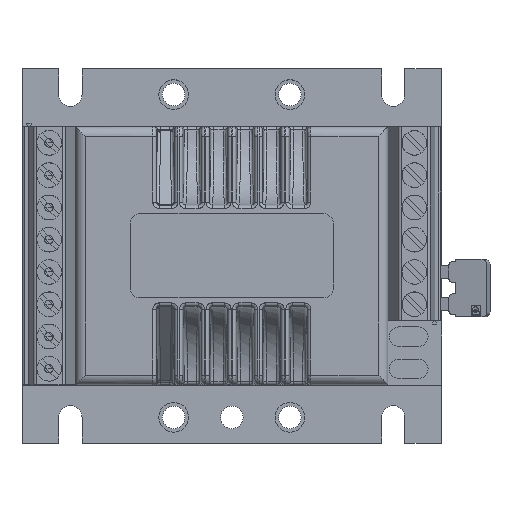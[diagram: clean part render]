
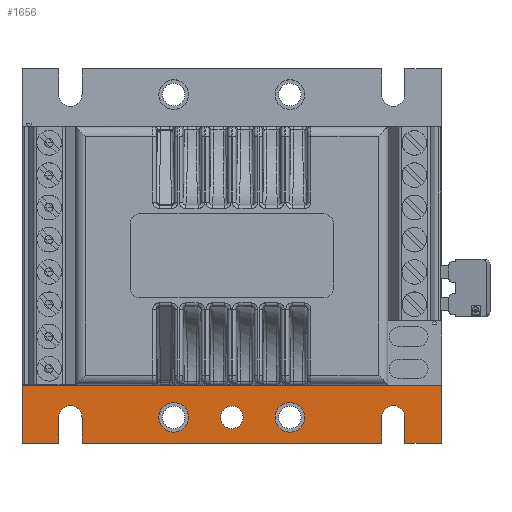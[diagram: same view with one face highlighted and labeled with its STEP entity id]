
A CAD part, top view. The second image highlights one B-rep face of the part: STEP entity #1656.
In plain terms, the highlighted planar face has unit normal (0, 0, 1).
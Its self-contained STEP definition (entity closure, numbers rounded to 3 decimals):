
#611=FACE_BOUND('',#4220,.T.);
#612=FACE_BOUND('',#4221,.T.);
#613=FACE_BOUND('',#4222,.T.);
#614=FACE_BOUND('',#4223,.T.);
#963=PLANE('',#19650);
#1656=ADVANCED_FACE('',(#611,#612,#613,#614),#963,.T.);
#4220=EDGE_LOOP('',(#6610,#6611,#6612,#6613,#6614,#6615,#6616,#6617,#6618,
#6619,#6620,#6621));
#4221=EDGE_LOOP('',(#6622));
#4222=EDGE_LOOP('',(#6623));
#4223=EDGE_LOOP('',(#6624));
#5535=CIRCLE('',#19645,1.8);
#5536=CIRCLE('',#19646,1.8);
#5537=CIRCLE('',#19647,2.3);
#5538=CIRCLE('',#19648,2.3);
#5539=CIRCLE('',#19649,1.75);
#6610=ORIENTED_EDGE('',*,*,#13605,.F.);
#6611=ORIENTED_EDGE('',*,*,#13606,.F.);
#6612=ORIENTED_EDGE('',*,*,#13607,.F.);
#6613=ORIENTED_EDGE('',*,*,#13608,.T.);
#6614=ORIENTED_EDGE('',*,*,#13609,.F.);
#6615=ORIENTED_EDGE('',*,*,#13610,.F.);
#6616=ORIENTED_EDGE('',*,*,#13611,.F.);
#6617=ORIENTED_EDGE('',*,*,#13612,.T.);
#6618=ORIENTED_EDGE('',*,*,#13613,.T.);
#6619=ORIENTED_EDGE('',*,*,#13614,.F.);
#6620=ORIENTED_EDGE('',*,*,#13615,.F.);
#6621=ORIENTED_EDGE('',*,*,#13616,.F.);
#6622=ORIENTED_EDGE('',*,*,#13617,.T.);
#6623=ORIENTED_EDGE('',*,*,#13618,.T.);
#6624=ORIENTED_EDGE('',*,*,#13619,.T.);
#11806=VERTEX_POINT('',#27434);
#11807=VERTEX_POINT('',#27435);
#11808=VERTEX_POINT('',#27437);
#11809=VERTEX_POINT('',#27439);
#11810=VERTEX_POINT('',#27441);
#11811=VERTEX_POINT('',#27443);
#11812=VERTEX_POINT('',#27445);
#11813=VERTEX_POINT('',#27447);
#11814=VERTEX_POINT('',#27449);
#11815=VERTEX_POINT('',#27451);
#11816=VERTEX_POINT('',#27453);
#11817=VERTEX_POINT('',#27455);
#11818=VERTEX_POINT('',#27458);
#11819=VERTEX_POINT('',#27460);
#11820=VERTEX_POINT('',#27462);
#13605=EDGE_CURVE('',#11806,#11807,#16260,.T.);
#13606=EDGE_CURVE('',#11808,#11806,#16261,.T.);
#13607=EDGE_CURVE('',#11809,#11808,#16262,.T.);
#13608=EDGE_CURVE('',#11809,#11810,#16263,.T.);
#13609=EDGE_CURVE('',#11811,#11810,#5535,.T.);
#13610=EDGE_CURVE('',#11812,#11811,#16264,.T.);
#13611=EDGE_CURVE('',#11813,#11812,#16265,.T.);
#13612=EDGE_CURVE('',#11813,#11814,#16266,.T.);
#13613=EDGE_CURVE('',#11814,#11815,#5536,.T.);
#13614=EDGE_CURVE('',#11816,#11815,#16267,.T.);
#13615=EDGE_CURVE('',#11817,#11816,#16268,.T.);
#13616=EDGE_CURVE('',#11807,#11817,#16269,.T.);
#13617=EDGE_CURVE('',#11818,#11818,#5537,.T.);
#13618=EDGE_CURVE('',#11819,#11819,#5538,.T.);
#13619=EDGE_CURVE('',#11820,#11820,#5539,.T.);
#16260=LINE('',#27433,#17964);
#16261=LINE('',#27436,#17965);
#16262=LINE('',#27438,#17966);
#16263=LINE('',#27440,#17967);
#16264=LINE('',#27444,#17968);
#16265=LINE('',#27446,#17969);
#16266=LINE('',#27448,#17970);
#16267=LINE('',#27452,#17971);
#16268=LINE('',#27454,#17972);
#16269=LINE('',#27456,#17973);
#17964=VECTOR('',#21870,1.);
#17965=VECTOR('',#21871,1.);
#17966=VECTOR('',#21872,1.);
#17967=VECTOR('',#21873,1.);
#17968=VECTOR('',#21876,1.);
#17969=VECTOR('',#21877,1.);
#17970=VECTOR('',#21878,1.);
#17971=VECTOR('',#21881,1.);
#17972=VECTOR('',#21882,1.);
#17973=VECTOR('',#21883,1.);
#19645=AXIS2_PLACEMENT_3D('',#27442,#21874,#21875);
#19646=AXIS2_PLACEMENT_3D('',#27450,#21879,#21880);
#19647=AXIS2_PLACEMENT_3D('',#27457,#21884,#21885);
#19648=AXIS2_PLACEMENT_3D('',#27459,#21886,#21887);
#19649=AXIS2_PLACEMENT_3D('',#27461,#21888,#21889);
#19650=AXIS2_PLACEMENT_3D('',#27463,#21890,#21891);
#21870=DIRECTION('',(1.,0.,0.));
#21871=DIRECTION('',(0.,1.,0.));
#21872=DIRECTION('',(-1.,0.,0.));
#21873=DIRECTION('',(0.,1.,0.));
#21874=DIRECTION('',(0.,0.,1.));
#21875=DIRECTION('',(1.,0.,0.));
#21876=DIRECTION('',(0.,1.,0.));
#21877=DIRECTION('',(-1.,0.,0.));
#21878=DIRECTION('',(0.,1.,0.));
#21879=DIRECTION('',(0.,0.,-1.));
#21880=DIRECTION('',(-1.,0.,0.));
#21881=DIRECTION('',(0.,1.,0.));
#21882=DIRECTION('',(-1.,0.,0.));
#21883=DIRECTION('',(0.,-1.,0.));
#21884=DIRECTION('',(0.,0.,-1.));
#21885=DIRECTION('',(-1.,0.,0.));
#21886=DIRECTION('',(0.,0.,-1.));
#21887=DIRECTION('',(-1.,0.,0.));
#21888=DIRECTION('',(0.,0.,-1.));
#21889=DIRECTION('',(1.,0.,0.));
#21890=DIRECTION('',(0.,0.,1.));
#21891=DIRECTION('',(-1.,0.,0.));
#27433=CARTESIAN_POINT('',(0.,-20.,0.));
#27434=CARTESIAN_POINT('',(-32.5,-20.,0.));
#27435=CARTESIAN_POINT('',(32.5,-20.,0.));
#27436=CARTESIAN_POINT('',(-32.5,0.,0.));
#27437=CARTESIAN_POINT('',(-32.5,-29.,0.));
#27438=CARTESIAN_POINT('',(0.,-29.,0.));
#27439=CARTESIAN_POINT('',(-26.8,-29.,0.));
#27440=CARTESIAN_POINT('',(-26.8,-33.2,0.));
#27441=CARTESIAN_POINT('',(-26.8,-25.,0.));
#27442=CARTESIAN_POINT('',(-25.,-25.,0.));
#27443=CARTESIAN_POINT('',(-23.2,-25.,0.));
#27444=CARTESIAN_POINT('',(-23.2,-33.2,0.));
#27445=CARTESIAN_POINT('',(-23.2,-29.,0.));
#27446=CARTESIAN_POINT('',(0.,-29.,0.));
#27447=CARTESIAN_POINT('',(23.2,-29.,0.));
#27448=CARTESIAN_POINT('',(23.2,-33.2,0.));
#27449=CARTESIAN_POINT('',(23.2,-25.,0.));
#27450=CARTESIAN_POINT('',(25.,-25.,0.));
#27451=CARTESIAN_POINT('',(26.8,-25.,0.));
#27452=CARTESIAN_POINT('',(26.8,-33.2,0.));
#27453=CARTESIAN_POINT('',(26.8,-29.,0.));
#27454=CARTESIAN_POINT('',(0.,-29.,0.));
#27455=CARTESIAN_POINT('',(32.5,-29.,0.));
#27456=CARTESIAN_POINT('',(32.5,0.,0.));
#27457=CARTESIAN_POINT('',(9.,-25.,0.));
#27458=CARTESIAN_POINT('',(6.7,-25.,0.));
#27459=CARTESIAN_POINT('',(-9.,-25.,0.));
#27460=CARTESIAN_POINT('',(-11.3,-25.,0.));
#27461=CARTESIAN_POINT('',(0.,-25.,0.));
#27462=CARTESIAN_POINT('',(1.75,-25.,0.));
#27463=CARTESIAN_POINT('',(0.,0.,0.));
